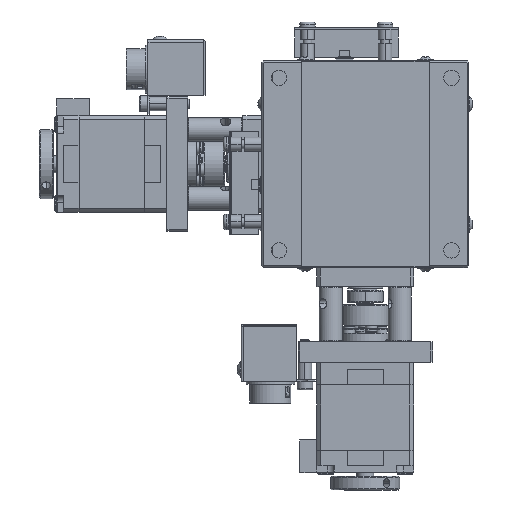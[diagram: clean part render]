
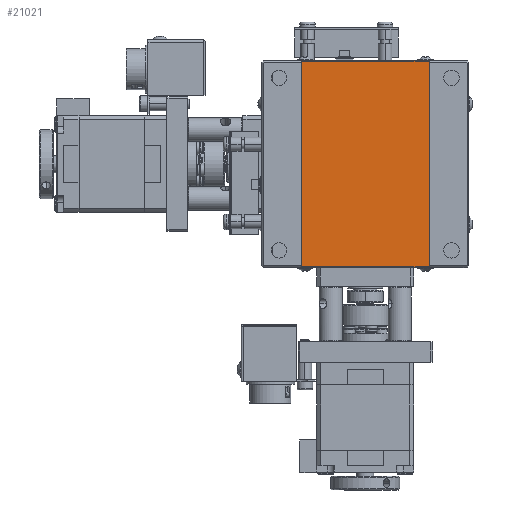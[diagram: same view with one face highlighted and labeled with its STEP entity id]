
A CAD part, front view. The second image highlights one B-rep face of the part: STEP entity #21021.
In plain terms, the highlighted planar face has unit normal (0, -1, 0).
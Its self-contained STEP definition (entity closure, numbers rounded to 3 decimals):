
#24 = CARTESIAN_POINT ( 'NONE',  ( -44.516, -14.526, 37.978 ) ) ;
#1496 = DIRECTION ( 'NONE',  ( -1., 0., 0. ) ) ;
#2009 = EDGE_LOOP ( 'NONE', ( #21155, #43844, #42288, #44139 ) ) ;
#2854 = VERTEX_POINT ( 'NONE', #47472 ) ;
#2903 = FACE_OUTER_BOUND ( 'NONE', #2009, .T. ) ;
#4896 = VECTOR ( 'NONE', #51682, 1000. ) ;
#5397 = CARTESIAN_POINT ( 'NONE',  ( -33.016, -14.526, 37.778 ) ) ;
#8240 = VECTOR ( 'NONE', #15931, 1000. ) ;
#9537 = EDGE_CURVE ( 'NONE', #43959, #10283, #14243, .T. ) ;
#10283 = VERTEX_POINT ( 'NONE', #17012 ) ;
#11259 = DIRECTION ( 'NONE',  ( 0., 0., -1. ) ) ;
#13100 = VECTOR ( 'NONE', #11259, 1000. ) ;
#14243 = LINE ( 'NONE', #24, #4896 ) ;
#15931 = DIRECTION ( 'NONE',  ( 0., 0., 1. ) ) ;
#17012 = CARTESIAN_POINT ( 'NONE',  ( 3.984, -14.526, 37.978 ) ) ;
#17951 = CARTESIAN_POINT ( 'NONE',  ( 3.984, -14.526, 97.578 ) ) ;
#21021 = ADVANCED_FACE ( 'NONE', ( #2903 ), #26316, .T. ) ;
#21155 = ORIENTED_EDGE ( 'NONE', *, *, #56996, .T. ) ;
#24547 = LINE ( 'NONE', #48134, #8240 ) ;
#24572 = CARTESIAN_POINT ( 'NONE',  ( -44.516, -14.526, 97.578 ) ) ;
#24908 = CARTESIAN_POINT ( 'NONE',  ( -44.516, -14.526, 37.778 ) ) ;
#26316 = PLANE ( 'NONE',  #42777 ) ;
#28761 = VERTEX_POINT ( 'NONE', #17951 ) ;
#29966 = EDGE_CURVE ( 'NONE', #2854, #43959, #57630, .T. ) ;
#31511 = VECTOR ( 'NONE', #57403, 1000. ) ;
#35526 = DIRECTION ( 'NONE',  ( 0., -1., 0. ) ) ;
#37507 = CARTESIAN_POINT ( 'NONE',  ( -33.016, -14.526, 37.978 ) ) ;
#38658 = LINE ( 'NONE', #24572, #31511 ) ;
#39174 = EDGE_CURVE ( 'NONE', #10283, #28761, #24547, .T. ) ;
#42288 = ORIENTED_EDGE ( 'NONE', *, *, #9537, .T. ) ;
#42777 = AXIS2_PLACEMENT_3D ( 'NONE', #24908, #35526, #1496 ) ;
#43844 = ORIENTED_EDGE ( 'NONE', *, *, #29966, .T. ) ;
#43959 = VERTEX_POINT ( 'NONE', #37507 ) ;
#44139 = ORIENTED_EDGE ( 'NONE', *, *, #39174, .T. ) ;
#47472 = CARTESIAN_POINT ( 'NONE',  ( -33.016, -14.526, 97.578 ) ) ;
#48134 = CARTESIAN_POINT ( 'NONE',  ( 3.984, -14.526, 37.778 ) ) ;
#51682 = DIRECTION ( 'NONE',  ( 1., 0., 0. ) ) ;
#56996 = EDGE_CURVE ( 'NONE', #28761, #2854, #38658, .T. ) ;
#57403 = DIRECTION ( 'NONE',  ( -1., 0., 0. ) ) ;
#57630 = LINE ( 'NONE', #5397, #13100 ) ;
